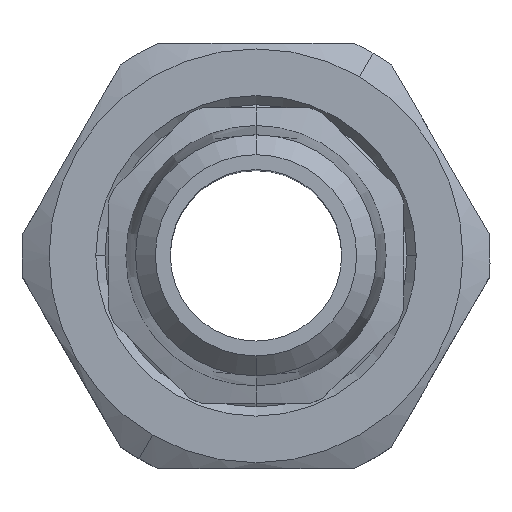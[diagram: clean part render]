
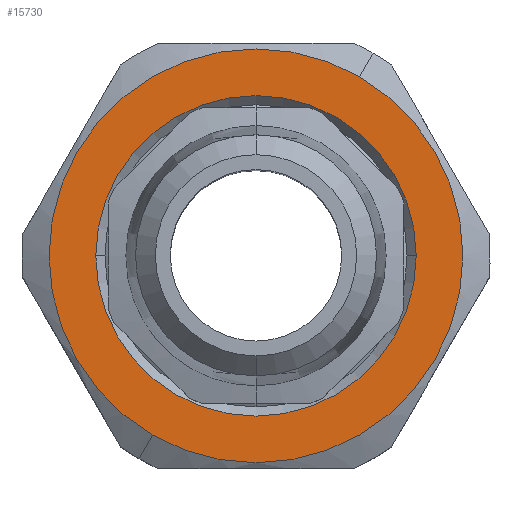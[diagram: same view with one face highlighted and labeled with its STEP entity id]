
A CAD part, top view. The second image highlights one B-rep face of the part: STEP entity #15730.
In plain terms, the highlighted planar face has unit normal (0, 0, 1).
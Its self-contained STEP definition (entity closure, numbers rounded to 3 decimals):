
#4830=CARTESIAN_POINT('',(70.598,46.757,-44.84));
#4840=VERTEX_POINT('',#4830);
#4870=CARTESIAN_POINT('',(84.151,46.757,-44.84));
#4880=DIRECTION('',(0.,0.,1.));
#4890=DIRECTION('',(-1.,0.,0.));
#4900=AXIS2_PLACEMENT_3D('',#4870,#4880,#4890);
#4910=CIRCLE('',#4900,13.553);
#4920=CARTESIAN_POINT('',(97.704,46.757,-44.84));
#4930=VERTEX_POINT('',#4920);
#4940=EDGE_CURVE('',#4930,#4840,#4910,.T.);
#7950=CARTESIAN_POINT('',(92.901,61.912,-44.84));
#7960=VERTEX_POINT('',#7950);
#7990=CARTESIAN_POINT('',(84.151,46.757,-44.84));
#8000=DIRECTION('',(0.,0.,-1.));
#8010=DIRECTION('',(-1.,0.,0.));
#8020=AXIS2_PLACEMENT_3D('',#7990,#8000,#8010);
#8030=CIRCLE('',#8020,17.5);
#8040=CARTESIAN_POINT('',(66.651,46.757,-44.84));
#8050=VERTEX_POINT('',#8040);
#8060=EDGE_CURVE('',#8050,#7960,#8030,.T.);
#8080=CARTESIAN_POINT('',(75.401,31.601,-44.84));
#8090=VERTEX_POINT('',#8080);
#8100=EDGE_CURVE('',#8090,#8050,#8030,.T.);
#15570=CARTESIAN_POINT('',(65.526,46.757,-44.84));
#15580=DIRECTION('',(0.,0.,1.));
#15590=DIRECTION('',(1.,0.,0.));
#15600=AXIS2_PLACEMENT_3D('',#15570,#15580,#15590);
#15610=PLANE('',#15600);
#15620=ORIENTED_EDGE('',*,*,#4940,.F.);
#15630=EDGE_CURVE('',#4840,#4930,#4910,.T.);
#15640=ORIENTED_EDGE('',*,*,#15630,.F.);
#15650=EDGE_LOOP('',(#15640,#15620));
#15660=FACE_BOUND('',#15650,.T.);
#15670=ORIENTED_EDGE('',*,*,#8060,.F.);
#15680=EDGE_CURVE('',#7960,#8090,#8030,.T.);
#15690=ORIENTED_EDGE('',*,*,#15680,.F.);
#15700=ORIENTED_EDGE('',*,*,#8100,.F.);
#15710=EDGE_LOOP('',(#15700,#15690,#15670));
#15720=FACE_OUTER_BOUND('',#15710,.T.);
#15730=ADVANCED_FACE('',(#15660,#15720),#15610,.T.);
